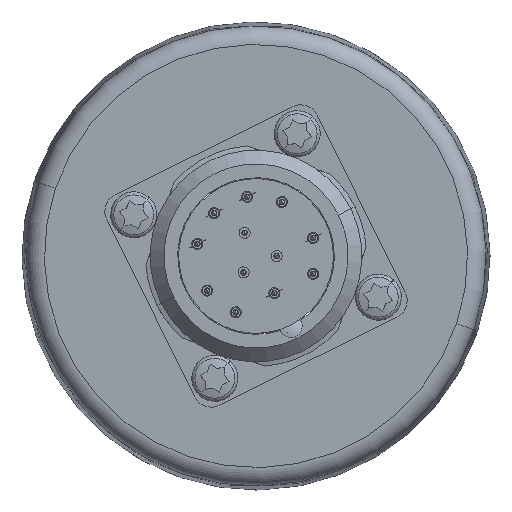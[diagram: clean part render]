
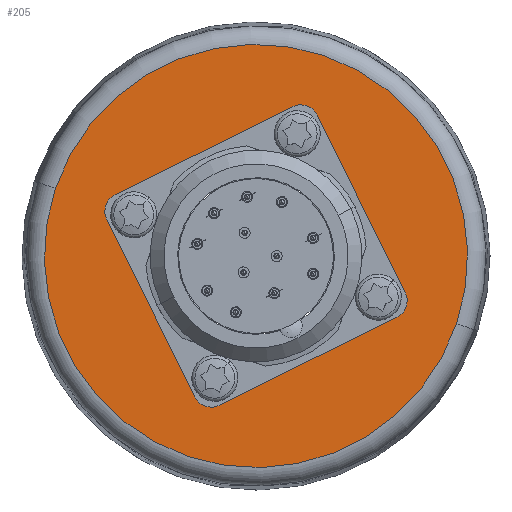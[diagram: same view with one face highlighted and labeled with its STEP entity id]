
A CAD part, left-side view. The second image highlights one B-rep face of the part: STEP entity #205.
In plain terms, the highlighted planar face has unit normal (-1, 0, 0).
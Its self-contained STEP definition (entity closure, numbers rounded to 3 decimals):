
#59 = VERTEX_POINT ( 'NONE', #1101 ) ;
#65 = EDGE_LOOP ( 'NONE', ( #66, #1592 ) ) ;
#66 = ORIENTED_EDGE ( 'NONE', *, *, #106, .T. ) ;
#69 = EDGE_LOOP ( 'NONE', ( #204, #100 ) ) ;
#83 = EDGE_CURVE ( 'NONE', #153, #128, #1169, .T. ) ;
#100 = ORIENTED_EDGE ( 'NONE', *, *, #101, .T. ) ;
#101 = EDGE_CURVE ( 'NONE', #128, #153, #1193, .T. ) ;
#106 = EDGE_CURVE ( 'NONE', #112, #59, #1207, .T. ) ;
#110 = EDGE_CURVE ( 'NONE', #59, #112, #1248, .T. ) ;
#111 = EDGE_LOOP ( 'NONE', ( #1591, #180 ) ) ;
#112 = VERTEX_POINT ( 'NONE', #1281 ) ;
#114 = EDGE_CURVE ( 'NONE', #1596, #1600, #1226, .T. ) ;
#128 = VERTEX_POINT ( 'NONE', #1244 ) ;
#153 = VERTEX_POINT ( 'NONE', #1325 ) ;
#163 = EDGE_CURVE ( 'NONE', #171, #192, #1354, .T. ) ;
#171 = VERTEX_POINT ( 'NONE', #1368 ) ;
#173 = EDGE_CURVE ( 'NONE', #192, #171, #1458, .T. ) ;
#174 = ORIENTED_EDGE ( 'NONE', *, *, #163, .F. ) ;
#178 = EDGE_LOOP ( 'NONE', ( #11470, #174 ) ) ;
#179 = EDGE_CURVE ( 'NONE', #708, #711, #1401, .T. ) ;
#180 = ORIENTED_EDGE ( 'NONE', *, *, #710, .T. ) ;
#192 = VERTEX_POINT ( 'NONE', #1419 ) ;
#204 = ORIENTED_EDGE ( 'NONE', *, *, #83, .T. ) ;
#205 = ADVANCED_FACE ( 'NONE', ( #1491, #1490, #1489, #1488, #1487, #1486 ), #1548, .F. ) ;
#708 = VERTEX_POINT ( 'NONE', #13132 ) ;
#710 = EDGE_CURVE ( 'NONE', #711, #708, #13131, .T. ) ;
#711 = VERTEX_POINT ( 'NONE', #13126 ) ;
#1101 = CARTESIAN_POINT ( 'NONE',  ( -21., -14.584, -4.912 ) ) ;
#1165 = DIRECTION ( 'NONE',  ( 0., 0.948, 0.319 ) ) ;
#1166 = DIRECTION ( 'NONE',  ( 1., 0., 0. ) ) ;
#1167 = CARTESIAN_POINT ( 'NONE',  ( -21., 13.268, 4.469 ) ) ;
#1168 = AXIS2_PLACEMENT_3D ( 'NONE', #1167, #1166, #1165 ) ;
#1169 = CIRCLE ( 'NONE', #1168, 1.389 ) ;
#1176 = DIRECTION ( 'NONE',  ( 0., 0.948, 0.319 ) ) ;
#1179 = DIRECTION ( 'NONE',  ( 1., 0., 0. ) ) ;
#1180 = CARTESIAN_POINT ( 'NONE',  ( -21., -13.268, -4.469 ) ) ;
#1181 = DIRECTION ( 'NONE',  ( 1., 0., 0. ) ) ;
#1186 = DIRECTION ( 'NONE',  ( 0., 0.948, 0.319 ) ) ;
#1193 = CIRCLE ( 'NONE', #1196, 1.389 ) ;
#1196 = AXIS2_PLACEMENT_3D ( 'NONE', #1256, #1179, #1176 ) ;
#1206 = AXIS2_PLACEMENT_3D ( 'NONE', #1180, #1181, #1186 ) ;
#1207 = CIRCLE ( 'NONE', #1206, 1.389 ) ;
#1222 = DIRECTION ( 'NONE',  ( 0., 0.948, 0.319 ) ) ;
#1223 = DIRECTION ( 'NONE',  ( 1., 0., 0. ) ) ;
#1224 = CARTESIAN_POINT ( 'NONE',  ( -21., -4.469, 13.268 ) ) ;
#1225 = AXIS2_PLACEMENT_3D ( 'NONE', #1224, #1223, #1222 ) ;
#1226 = CIRCLE ( 'NONE', #1225, 1.389 ) ;
#1244 = CARTESIAN_POINT ( 'NONE',  ( -21., 11.952, 4.026 ) ) ;
#1248 = CIRCLE ( 'NONE', #1280, 1.389 ) ;
#1256 = CARTESIAN_POINT ( 'NONE',  ( -21., 13.268, 4.469 ) ) ;
#1277 = DIRECTION ( 'NONE',  ( 0., 0.948, 0.319 ) ) ;
#1278 = DIRECTION ( 'NONE',  ( 1., 0., 0. ) ) ;
#1279 = CARTESIAN_POINT ( 'NONE',  ( -21., -13.268, -4.469 ) ) ;
#1280 = AXIS2_PLACEMENT_3D ( 'NONE', #1279, #1278, #1277 ) ;
#1281 = CARTESIAN_POINT ( 'NONE',  ( -21., -11.952, -4.026 ) ) ;
#1325 = CARTESIAN_POINT ( 'NONE',  ( -21., 14.584, 4.912 ) ) ;
#1346 = DIRECTION ( 'NONE',  ( 0., -0.948, -0.319 ) ) ;
#1347 = DIRECTION ( 'NONE',  ( -1., 0., 0. ) ) ;
#1348 = CARTESIAN_POINT ( 'NONE',  ( -21., 0., 0. ) ) ;
#1349 = AXIS2_PLACEMENT_3D ( 'NONE', #1348, #1347, #1346 ) ;
#1354 = CIRCLE ( 'NONE', #1349, 11.5 ) ;
#1368 = CARTESIAN_POINT ( 'NONE',  ( -21., 10.898, 3.671 ) ) ;
#1400 = CARTESIAN_POINT ( 'NONE',  ( -21., 0., 0. ) ) ;
#1401 = CIRCLE ( 'NONE', #1435, 22.972 ) ;
#1419 = CARTESIAN_POINT ( 'NONE',  ( -21., -10.898, -3.671 ) ) ;
#1422 = DIRECTION ( 'NONE',  ( -1., 0., 0. ) ) ;
#1423 = AXIS2_PLACEMENT_3D ( 'NONE', #1455, #1422, #1452 ) ;
#1433 = DIRECTION ( 'NONE',  ( 0., 0.948, 0.319 ) ) ;
#1434 = DIRECTION ( 'NONE',  ( -1., 0., 0. ) ) ;
#1435 = AXIS2_PLACEMENT_3D ( 'NONE', #1400, #1434, #1433 ) ;
#1452 = DIRECTION ( 'NONE',  ( 0., -0.948, -0.319 ) ) ;
#1455 = CARTESIAN_POINT ( 'NONE',  ( -21., 0., 0. ) ) ;
#1458 = CIRCLE ( 'NONE', #1423, 11.5 ) ;
#1486 = FACE_BOUND ( 'NONE', #178, .T. ) ;
#1487 = FACE_OUTER_BOUND ( 'NONE', #111, .T. ) ;
#1488 = FACE_BOUND ( 'NONE', #65, .T. ) ;
#1489 = FACE_BOUND ( 'NONE', #11463, .T. ) ;
#1490 = FACE_BOUND ( 'NONE', #8665, .T. ) ;
#1491 = FACE_BOUND ( 'NONE', #69, .T. ) ;
#1534 = CARTESIAN_POINT ( 'NONE',  ( -21., 0., 0. ) ) ;
#1535 = AXIS2_PLACEMENT_3D ( 'NONE', #1534, #1583, #1582 ) ;
#1548 = PLANE ( 'NONE',  #1535 ) ;
#1582 = DIRECTION ( 'NONE',  ( 0., 0.948, 0.319 ) ) ;
#1583 = DIRECTION ( 'NONE',  ( 1., 0., 0. ) ) ;
#1591 = ORIENTED_EDGE ( 'NONE', *, *, #179, .T. ) ;
#1592 = ORIENTED_EDGE ( 'NONE', *, *, #110, .T. ) ;
#1593 = EDGE_CURVE ( 'NONE', #1600, #1596, #14471, .T. ) ;
#1596 = VERTEX_POINT ( 'NONE', #14507 ) ;
#1600 = VERTEX_POINT ( 'NONE', #14505 ) ;
#1603 = ORIENTED_EDGE ( 'NONE', *, *, #1593, .T. ) ;
#8665 = EDGE_LOOP ( 'NONE', ( #11464, #11466 ) ) ;
#9816 = CARTESIAN_POINT ( 'NONE',  ( -21., 5.785, -12.825 ) ) ;
#9862 = DIRECTION ( 'NONE',  ( 0., 0.948, 0.319 ) ) ;
#9864 = DIRECTION ( 'NONE',  ( 1., 0., 0. ) ) ;
#9866 = CARTESIAN_POINT ( 'NONE',  ( -21., 4.469, -13.268 ) ) ;
#9868 = AXIS2_PLACEMENT_3D ( 'NONE', #9866, #9864, #9862 ) ;
#9872 = CIRCLE ( 'NONE', #9868, 1.389 ) ;
#9929 = DIRECTION ( 'NONE',  ( 0., 0.948, 0.319 ) ) ;
#9931 = DIRECTION ( 'NONE',  ( 1., 0., 0. ) ) ;
#9933 = CARTESIAN_POINT ( 'NONE',  ( -21., 4.469, -13.268 ) ) ;
#9934 = AXIS2_PLACEMENT_3D ( 'NONE', #9933, #9931, #9929 ) ;
#9936 = CIRCLE ( 'NONE', #9934, 1.389 ) ;
#9941 = CARTESIAN_POINT ( 'NONE',  ( -21., 3.153, -13.712 ) ) ;
#11224 = ORIENTED_EDGE ( 'NONE', *, *, #114, .T. ) ;
#11462 = EDGE_CURVE ( 'NONE', #11472, #11471, #9872, .T. ) ;
#11463 = EDGE_LOOP ( 'NONE', ( #1603, #11224 ) ) ;
#11464 = ORIENTED_EDGE ( 'NONE', *, *, #11475, .T. ) ;
#11466 = ORIENTED_EDGE ( 'NONE', *, *, #11462, .T. ) ;
#11470 = ORIENTED_EDGE ( 'NONE', *, *, #173, .F. ) ;
#11471 = VERTEX_POINT ( 'NONE', #9816 ) ;
#11472 = VERTEX_POINT ( 'NONE', #9941 ) ;
#11475 = EDGE_CURVE ( 'NONE', #11471, #11472, #9936, .T. ) ;
#13126 = CARTESIAN_POINT ( 'NONE',  ( -21., -21.77, -7.332 ) ) ;
#13127 = DIRECTION ( 'NONE',  ( 0., 0.948, 0.319 ) ) ;
#13128 = DIRECTION ( 'NONE',  ( -1., 0., 0. ) ) ;
#13129 = CARTESIAN_POINT ( 'NONE',  ( -21., 0., 0. ) ) ;
#13130 = AXIS2_PLACEMENT_3D ( 'NONE', #13129, #13128, #13127 ) ;
#13131 = CIRCLE ( 'NONE', #13130, 22.972 ) ;
#13132 = CARTESIAN_POINT ( 'NONE',  ( -21., 21.77, 7.332 ) ) ;
#14467 = DIRECTION ( 'NONE',  ( 0., 0.948, 0.319 ) ) ;
#14468 = DIRECTION ( 'NONE',  ( 1., 0., 0. ) ) ;
#14469 = CARTESIAN_POINT ( 'NONE',  ( -21., -4.469, 13.268 ) ) ;
#14470 = AXIS2_PLACEMENT_3D ( 'NONE', #14469, #14468, #14467 ) ;
#14471 = CIRCLE ( 'NONE', #14470, 1.389 ) ;
#14505 = CARTESIAN_POINT ( 'NONE',  ( -21., -3.153, 13.712 ) ) ;
#14507 = CARTESIAN_POINT ( 'NONE',  ( -21., -5.785, 12.825 ) ) ;
